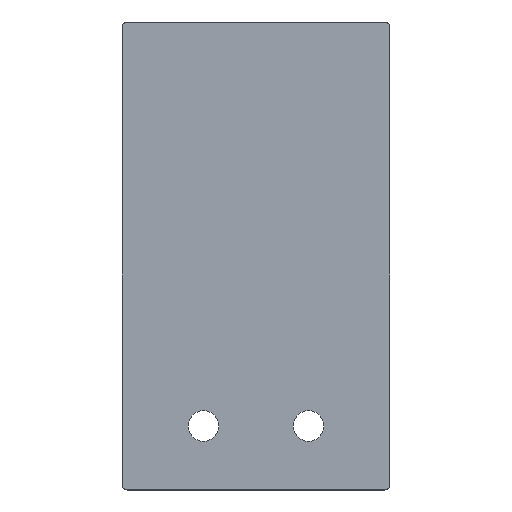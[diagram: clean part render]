
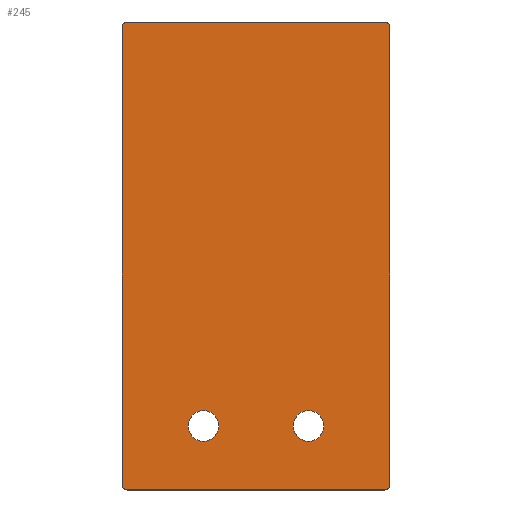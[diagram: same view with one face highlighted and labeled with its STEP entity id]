
A CAD part, top view. The second image highlights one B-rep face of the part: STEP entity #245.
In plain terms, the highlighted planar face has unit normal (0, 0, 1).
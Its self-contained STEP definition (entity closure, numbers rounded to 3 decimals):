
#27=PLANE('',#282);
#30=LINE('',#376,#46);
#34=LINE('',#388,#50);
#38=LINE('',#400,#54);
#42=LINE('',#412,#58);
#46=VECTOR('',#303,1000.);
#50=VECTOR('',#315,1000.);
#54=VECTOR('',#327,1000.);
#58=VECTOR('',#339,1000.);
#102=ORIENTED_EDGE('',*,*,#146,.F.);
#103=ORIENTED_EDGE('',*,*,#147,.F.);
#104=ORIENTED_EDGE('',*,*,#120,.T.);
#105=ORIENTED_EDGE('',*,*,#124,.T.);
#106=ORIENTED_EDGE('',*,*,#127,.T.);
#107=ORIENTED_EDGE('',*,*,#130,.T.);
#108=ORIENTED_EDGE('',*,*,#133,.T.);
#109=ORIENTED_EDGE('',*,*,#136,.T.);
#110=ORIENTED_EDGE('',*,*,#139,.T.);
#111=ORIENTED_EDGE('',*,*,#142,.T.);
#120=EDGE_CURVE('',#150,#151,#172,.T.);
#124=EDGE_CURVE('',#151,#154,#30,.T.);
#127=EDGE_CURVE('',#154,#156,#174,.T.);
#130=EDGE_CURVE('',#156,#158,#34,.T.);
#133=EDGE_CURVE('',#158,#160,#176,.T.);
#136=EDGE_CURVE('',#160,#162,#38,.T.);
#139=EDGE_CURVE('',#162,#164,#178,.T.);
#142=EDGE_CURVE('',#164,#150,#42,.T.);
#146=EDGE_CURVE('',#168,#168,#182,.T.);
#147=EDGE_CURVE('',#169,#169,#183,.T.);
#150=VERTEX_POINT('',#368);
#151=VERTEX_POINT('',#369);
#154=VERTEX_POINT('',#377);
#156=VERTEX_POINT('',#383);
#158=VERTEX_POINT('',#389);
#160=VERTEX_POINT('',#395);
#162=VERTEX_POINT('',#401);
#164=VERTEX_POINT('',#407);
#168=VERTEX_POINT('',#421);
#169=VERTEX_POINT('',#423);
#172=CIRCLE('',#264,0.5);
#174=CIRCLE('',#268,0.5);
#176=CIRCLE('',#272,0.5);
#178=CIRCLE('',#276,0.5);
#182=CIRCLE('',#283,1.6);
#183=CIRCLE('',#284,1.6);
#197=EDGE_LOOP('',(#102));
#198=EDGE_LOOP('',(#103));
#199=EDGE_LOOP('',(#104,#105,#106,#107,#108,#109,#110,#111));
#219=FACE_BOUND('',#197,.T.);
#220=FACE_BOUND('',#198,.T.);
#221=FACE_BOUND('',#199,.T.);
#245=ADVANCED_FACE('',(#219,#220,#221),#27,.T.);
#264=AXIS2_PLACEMENT_3D('',#367,#295,#296);
#268=AXIS2_PLACEMENT_3D('',#382,#308,#309);
#272=AXIS2_PLACEMENT_3D('',#394,#320,#321);
#276=AXIS2_PLACEMENT_3D('',#406,#332,#333);
#282=AXIS2_PLACEMENT_3D('',#419,#347,#348);
#283=AXIS2_PLACEMENT_3D('',#420,#349,#350);
#284=AXIS2_PLACEMENT_3D('',#422,#351,#352);
#295=DIRECTION('',(0.,0.,1.));
#296=DIRECTION('',(1.,0.,0.));
#303=DIRECTION('',(0.,-1.,0.));
#308=DIRECTION('',(0.,0.,1.));
#309=DIRECTION('',(1.,0.,0.));
#315=DIRECTION('',(1.,0.,0.));
#320=DIRECTION('',(0.,0.,1.));
#321=DIRECTION('',(-1.,0.,0.));
#327=DIRECTION('',(0.,1.,0.));
#332=DIRECTION('',(0.,0.,1.));
#333=DIRECTION('',(1.,0.,0.));
#339=DIRECTION('',(-1.,0.,0.));
#347=DIRECTION('',(0.,0.,1.));
#348=DIRECTION('',(1.,0.,0.));
#349=DIRECTION('',(0.,0.,1.));
#350=DIRECTION('',(1.,0.,0.));
#351=DIRECTION('',(0.,0.,1.));
#352=DIRECTION('',(1.,0.,0.));
#367=CARTESIAN_POINT('',(-13.5,40.5,0.));
#368=CARTESIAN_POINT('',(-13.5,41.,0.));
#369=CARTESIAN_POINT('',(-14.,40.5,0.));
#376=CARTESIAN_POINT('',(-14.,40.5,0.));
#377=CARTESIAN_POINT('',(-14.,-7.5,0.));
#382=CARTESIAN_POINT('',(-13.5,-7.5,0.));
#383=CARTESIAN_POINT('',(-13.5,-8.,0.));
#388=CARTESIAN_POINT('',(-13.5,-8.,0.));
#389=CARTESIAN_POINT('',(13.5,-8.,0.));
#394=CARTESIAN_POINT('',(13.5,-7.5,0.));
#395=CARTESIAN_POINT('',(14.,-7.5,0.));
#400=CARTESIAN_POINT('',(14.,-7.5,0.));
#401=CARTESIAN_POINT('',(14.,40.5,0.));
#406=CARTESIAN_POINT('',(13.5,40.5,0.));
#407=CARTESIAN_POINT('',(13.5,41.,0.));
#412=CARTESIAN_POINT('',(13.5,41.,0.));
#419=CARTESIAN_POINT('',(-13.5,40.5,0.));
#420=CARTESIAN_POINT('',(5.5,-1.3,0.));
#421=CARTESIAN_POINT('',(7.1,-1.3,0.));
#422=CARTESIAN_POINT('',(-5.5,-1.3,0.));
#423=CARTESIAN_POINT('',(-3.9,-1.3,0.));
